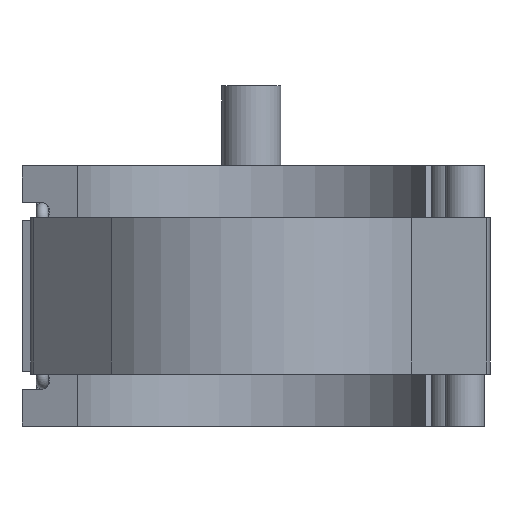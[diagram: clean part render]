
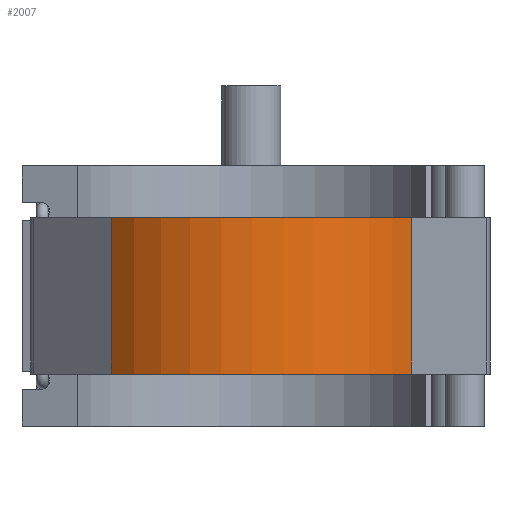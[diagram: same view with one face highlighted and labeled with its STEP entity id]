
A CAD part, front view. The second image highlights one B-rep face of the part: STEP entity #2007.
In plain terms, the highlighted cylindrical face has radius 128.75 mm (diameter 257.5 mm), a partial arc.
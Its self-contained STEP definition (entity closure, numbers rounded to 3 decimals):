
#60=CYLINDRICAL_SURFACE('',#2191,128.75);
#112=CIRCLE('',#2114,128.75);
#121=CIRCLE('',#2124,128.75);
#254=FACE_OUTER_BOUND('',#376,.T.);
#376=EDGE_LOOP('',(#1544,#1545,#1546,#1547));
#562=LINE('',#3234,#735);
#563=LINE('',#3236,#736);
#735=VECTOR('',#2594,10.);
#736=VECTOR('',#2597,10.);
#826=VERTEX_POINT('',#2990);
#827=VERTEX_POINT('',#2992);
#842=VERTEX_POINT('',#3024);
#843=VERTEX_POINT('',#3026);
#1020=EDGE_CURVE('',#826,#827,#112,.T.);
#1037=EDGE_CURVE('',#842,#843,#121,.T.);
#1145=EDGE_CURVE('',#826,#843,#562,.T.);
#1146=EDGE_CURVE('',#827,#842,#563,.T.);
#1544=ORIENTED_EDGE('',*,*,#1145,.T.);
#1545=ORIENTED_EDGE('',*,*,#1037,.F.);
#1546=ORIENTED_EDGE('',*,*,#1146,.F.);
#1547=ORIENTED_EDGE('',*,*,#1020,.F.);
#2007=ADVANCED_FACE('',(#254),#60,.T.);
#2114=AXIS2_PLACEMENT_3D('',#2993,#2357,#2358);
#2124=AXIS2_PLACEMENT_3D('',#3027,#2385,#2386);
#2191=AXIS2_PLACEMENT_3D('',#3235,#2595,#2596);
#2357=DIRECTION('center_axis',(0.,0.,-1.));
#2358=DIRECTION('ref_axis',(0.992,0.126,0.));
#2385=DIRECTION('center_axis',(0.,0.,1.));
#2386=DIRECTION('ref_axis',(0.992,0.126,0.));
#2594=DIRECTION('',(0.,0.,1.));
#2595=DIRECTION('center_axis',(0.,0.,1.));
#2596=DIRECTION('ref_axis',(0.992,0.126,0.));
#2597=DIRECTION('',(0.,0.,1.));
#2990=CARTESIAN_POINT('',(108.446,-69.398,-52.8));
#2992=CARTESIAN_POINT('',(-94.713,-87.212,-52.8));
#2993=CARTESIAN_POINT('Origin',(0.,0.,-52.8));
#3024=CARTESIAN_POINT('',(-94.713,-87.212,52.8));
#3026=CARTESIAN_POINT('',(108.446,-69.398,52.8));
#3027=CARTESIAN_POINT('Origin',(0.,0.,52.8));
#3234=CARTESIAN_POINT('',(108.446,-69.398,0.));
#3235=CARTESIAN_POINT('Origin',(0.,0.,0.));
#3236=CARTESIAN_POINT('',(-94.713,-87.212,0.));
